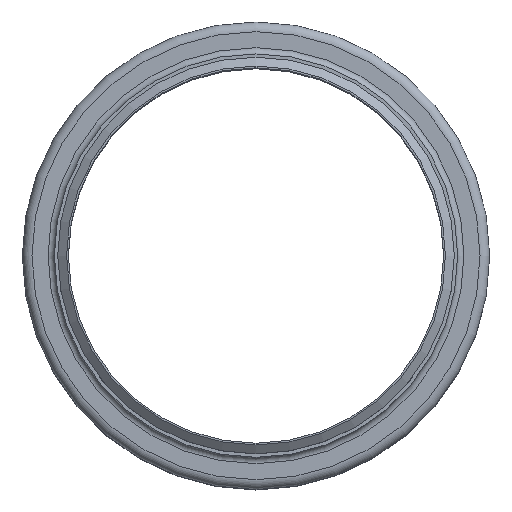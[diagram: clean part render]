
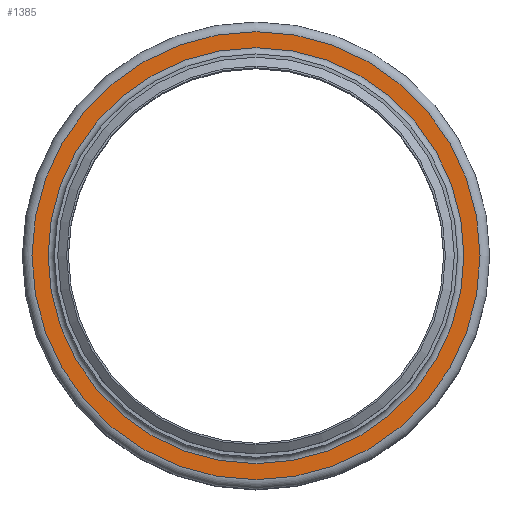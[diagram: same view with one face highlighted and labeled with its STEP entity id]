
A CAD part, top view. The second image highlights one B-rep face of the part: STEP entity #1385.
In plain terms, the highlighted planar face has unit normal (0, 0, 1).
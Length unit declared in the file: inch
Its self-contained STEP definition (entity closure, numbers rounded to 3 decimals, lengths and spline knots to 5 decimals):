
#155=FACE_BOUND('',#416,.T.);
#256=FACE_OUTER_BOUND('',#415,.T.);
#415=EDGE_LOOP('',(#1168));
#416=EDGE_LOOP('',(#1169));
#584=CIRCLE('',#1684,7.34125);
#585=CIRCLE('',#1686,7.90875);
#703=VERTEX_POINT('',#2631);
#704=VERTEX_POINT('',#2635);
#862=EDGE_CURVE('',#703,#703,#584,.T.);
#863=EDGE_CURVE('',#704,#704,#585,.T.);
#1168=ORIENTED_EDGE('',*,*,#863,.F.);
#1169=ORIENTED_EDGE('',*,*,#862,.T.);
#1284=PLANE('',#1685);
#1385=ADVANCED_FACE('',(#256,#155),#1284,.T.);
#1684=AXIS2_PLACEMENT_3D('',#2633,#2197,#2198);
#1685=AXIS2_PLACEMENT_3D('',#2634,#2199,#2200);
#1686=AXIS2_PLACEMENT_3D('',#2636,#2201,#2202);
#2197=DIRECTION('center_axis',(0.,0.,-1.));
#2198=DIRECTION('ref_axis',(1.,0.,0.));
#2199=DIRECTION('center_axis',(0.,0.,1.));
#2200=DIRECTION('ref_axis',(1.,0.,0.));
#2201=DIRECTION('center_axis',(0.,0.,-1.));
#2202=DIRECTION('ref_axis',(1.,0.,0.));
#2631=CARTESIAN_POINT('',(7.34125,0.,-0.22125));
#2633=CARTESIAN_POINT('Origin',(0.,0.,-0.22125));
#2634=CARTESIAN_POINT('Origin',(0.,7.90875,-0.22125));
#2635=CARTESIAN_POINT('',(7.90875,0.,-0.22125));
#2636=CARTESIAN_POINT('Origin',(0.,0.,-0.22125));
